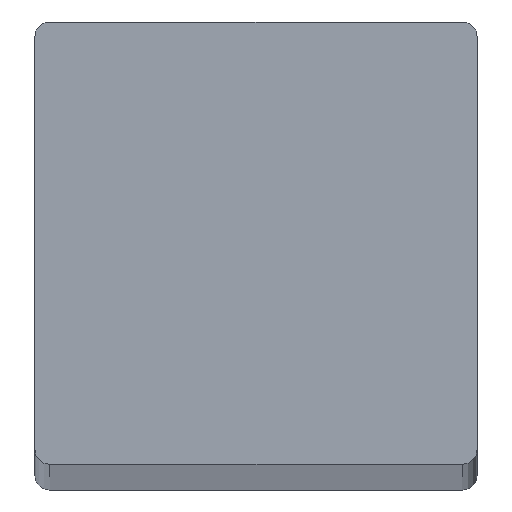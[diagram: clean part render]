
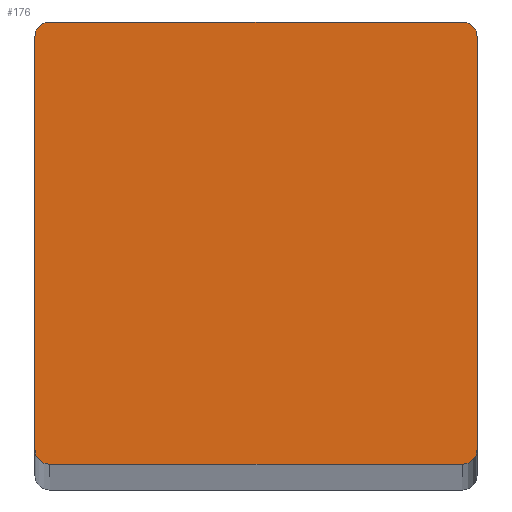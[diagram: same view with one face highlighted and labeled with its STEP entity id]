
A CAD part, top view. The second image highlights one B-rep face of the part: STEP entity #176.
In plain terms, the highlighted planar face has unit normal (0, 0, 1).
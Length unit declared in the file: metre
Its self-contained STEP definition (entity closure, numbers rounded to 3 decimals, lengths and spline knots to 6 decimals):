
#18=CIRCLE('',#190,0.001);
#19=CIRCLE('',#191,0.001);
#20=CIRCLE('',#192,0.001);
#21=CIRCLE('',#193,0.001);
#30=FACE_OUTER_BOUND('',#40,.T.);
#40=EDGE_LOOP('',(#134,#135,#136,#137,#138,#139,#140,#141));
#48=LINE('',#265,#64);
#50=LINE('',#270,#66);
#54=LINE('',#279,#70);
#60=LINE('',#292,#76);
#64=VECTOR('',#209,0.028);
#66=VECTOR('',#213,0.028);
#70=VECTOR('',#219,0.028);
#76=VECTOR('',#227,0.028);
#80=VERTEX_POINT('',#262);
#81=VERTEX_POINT('',#264);
#82=VERTEX_POINT('',#268);
#83=VERTEX_POINT('',#269);
#86=VERTEX_POINT('',#277);
#87=VERTEX_POINT('',#278);
#92=VERTEX_POINT('',#289);
#93=VERTEX_POINT('',#291);
#96=EDGE_CURVE('',#81,#80,#48,.T.);
#98=EDGE_CURVE('',#82,#83,#50,.T.);
#102=EDGE_CURVE('',#86,#87,#54,.T.);
#108=EDGE_CURVE('',#93,#92,#60,.T.);
#110=EDGE_CURVE('',#80,#82,#18,.T.);
#111=EDGE_CURVE('',#83,#86,#19,.T.);
#112=EDGE_CURVE('',#87,#93,#20,.T.);
#113=EDGE_CURVE('',#92,#81,#21,.T.);
#134=ORIENTED_EDGE('',*,*,#96,.T.);
#135=ORIENTED_EDGE('',*,*,#110,.T.);
#136=ORIENTED_EDGE('',*,*,#98,.T.);
#137=ORIENTED_EDGE('',*,*,#111,.T.);
#138=ORIENTED_EDGE('',*,*,#102,.T.);
#139=ORIENTED_EDGE('',*,*,#112,.T.);
#140=ORIENTED_EDGE('',*,*,#108,.T.);
#141=ORIENTED_EDGE('',*,*,#113,.T.);
#170=PLANE('',#189);
#176=ADVANCED_FACE('',(#30),#170,.T.);
#189=AXIS2_PLACEMENT_3D('',#294,#229,#230);
#190=AXIS2_PLACEMENT_3D('',#295,#231,#232);
#191=AXIS2_PLACEMENT_3D('',#296,#233,#234);
#192=AXIS2_PLACEMENT_3D('',#297,#235,#236);
#193=AXIS2_PLACEMENT_3D('',#298,#237,#238);
#209=DIRECTION('',(0.,-1.,0.));
#213=DIRECTION('',(1.,0.,0.));
#219=DIRECTION('',(0.,1.,0.));
#227=DIRECTION('',(-1.,0.,0.));
#229=DIRECTION('center_axis',(0.,0.,1.));
#230=DIRECTION('ref_axis',(1.,0.,0.));
#231=DIRECTION('center_axis',(0.,0.,1.));
#232=DIRECTION('ref_axis',(1.,0.,0.));
#233=DIRECTION('center_axis',(0.,0.,1.));
#234=DIRECTION('ref_axis',(1.,0.,0.));
#235=DIRECTION('center_axis',(0.,0.,1.));
#236=DIRECTION('ref_axis',(1.,0.,0.));
#237=DIRECTION('center_axis',(0.,0.,1.));
#238=DIRECTION('ref_axis',(1.,0.,0.));
#262=CARTESIAN_POINT('',(-0.015,-0.014,1.));
#264=CARTESIAN_POINT('',(-0.015,0.014,1.));
#265=CARTESIAN_POINT('',(-0.015,0.014,1.));
#268=CARTESIAN_POINT('',(-0.014,-0.015,1.));
#269=CARTESIAN_POINT('',(0.014,-0.015,1.));
#270=CARTESIAN_POINT('',(-0.014,-0.015,1.));
#277=CARTESIAN_POINT('',(0.015,-0.014,1.));
#278=CARTESIAN_POINT('',(0.015,0.014,1.));
#279=CARTESIAN_POINT('',(0.015,-0.014,1.));
#289=CARTESIAN_POINT('',(-0.014,0.015,1.));
#291=CARTESIAN_POINT('',(0.014,0.015,1.));
#292=CARTESIAN_POINT('',(0.014,0.015,1.));
#294=CARTESIAN_POINT('Origin',(0.,0.,1.));
#295=CARTESIAN_POINT('Origin',(-0.014,-0.014,1.));
#296=CARTESIAN_POINT('Origin',(0.014,-0.014,1.));
#297=CARTESIAN_POINT('Origin',(0.014,0.014,1.));
#298=CARTESIAN_POINT('Origin',(-0.014,0.014,1.));
